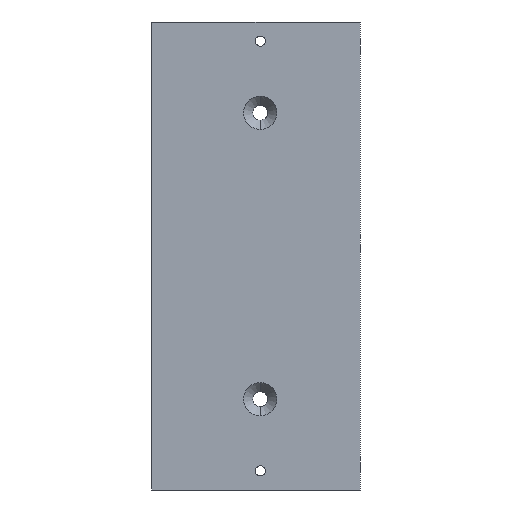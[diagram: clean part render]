
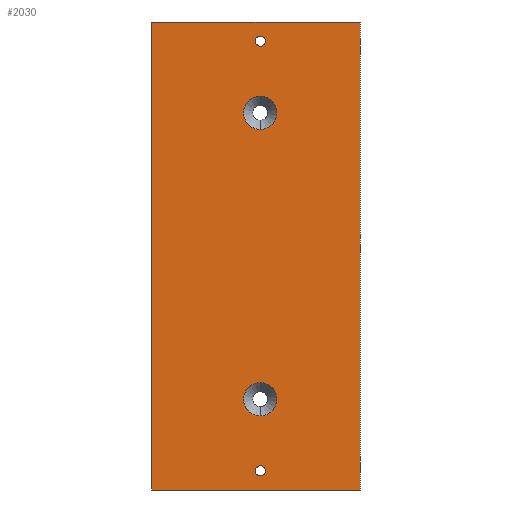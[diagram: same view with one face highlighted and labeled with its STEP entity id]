
A CAD part, left-side view. The second image highlights one B-rep face of the part: STEP entity #2030.
In plain terms, the highlighted planar face has unit normal (-1, 0, 0).
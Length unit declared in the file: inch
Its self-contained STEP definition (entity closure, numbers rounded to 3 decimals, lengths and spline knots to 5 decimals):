
#1 = FACE_BOUND ( 'NONE', #2190, .T. ) ;
#103 = FACE_OUTER_BOUND ( 'NONE', #285, .T. ) ;
#104 = FACE_BOUND ( 'NONE', #265, .T. ) ;
#105 = FACE_BOUND ( 'NONE', #2187, .T. ) ;
#108 = FACE_BOUND ( 'NONE', #2206, .T. ) ;
#166 = CIRCLE ( 'NONE', #862, 0.17427 ) ;
#265 = EDGE_LOOP ( 'NONE', ( #421, #561 ) ) ;
#285 = EDGE_LOOP ( 'NONE', ( #509, #506, #491, #490 ) ) ;
#306 = ORIENTED_EDGE ( 'NONE', *, *, #869, .F. ) ;
#307 = ORIENTED_EDGE ( 'NONE', *, *, #757, .F. ) ;
#308 = ORIENTED_EDGE ( 'NONE', *, *, #752, .F. ) ;
#355 = ORIENTED_EDGE ( 'NONE', *, *, #789, .F. ) ;
#366 = ORIENTED_EDGE ( 'NONE', *, *, #570, .F. ) ;
#421 = ORIENTED_EDGE ( 'NONE', *, *, #565, .F. ) ;
#422 = ORIENTED_EDGE ( 'NONE', *, *, #668, .F. ) ;
#490 = ORIENTED_EDGE ( 'NONE', *, *, #583, .T. ) ;
#491 = ORIENTED_EDGE ( 'NONE', *, *, #833, .F. ) ;
#506 = ORIENTED_EDGE ( 'NONE', *, *, #728, .F. ) ;
#509 = ORIENTED_EDGE ( 'NONE', *, *, #567, .T. ) ;
#561 = ORIENTED_EDGE ( 'NONE', *, *, #787, .F. ) ;
#565 = EDGE_CURVE ( 'NONE', #1891, #1794, #2054, .T. ) ;
#567 = EDGE_CURVE ( 'NONE', #1888, #1859, #2056, .T. ) ;
#570 = EDGE_CURVE ( 'NONE', #1515, #1486, #2061, .T. ) ;
#583 = EDGE_CURVE ( 'NONE', #1108, #1888, #2111, .T. ) ;
#614 = AXIS2_PLACEMENT_3D ( 'NONE', #1311, #1309, #1307 ) ;
#668 = EDGE_CURVE ( 'NONE', #1542, #1516, #166, .T. ) ;
#728 = EDGE_CURVE ( 'NONE', #1532, #1859, #1352, .T. ) ;
#745 = AXIS2_PLACEMENT_3D ( 'NONE', #1402, #1547, #1431 ) ;
#752 = EDGE_CURVE ( 'NONE', #1525, #1529, #1287, .T. ) ;
#757 = EDGE_CURVE ( 'NONE', #1529, #1525, #1429, .T. ) ;
#787 = EDGE_CURVE ( 'NONE', #1794, #1891, #946, .T. ) ;
#789 = EDGE_CURVE ( 'NONE', #1486, #1515, #947, .T. ) ;
#794 = AXIS2_PLACEMENT_3D ( 'NONE', #1784, #1783, #1785 ) ;
#798 = AXIS2_PLACEMENT_3D ( 'NONE', #975, #974, #973 ) ;
#799 = AXIS2_PLACEMENT_3D ( 'NONE', #1659, #1694, #1696 ) ;
#802 = AXIS2_PLACEMENT_3D ( 'NONE', #1379, #1378, #1377 ) ;
#833 = EDGE_CURVE ( 'NONE', #1108, #1532, #949, .T. ) ;
#838 = AXIS2_PLACEMENT_3D ( 'NONE', #1455, #1450, #1451 ) ;
#855 = AXIS2_PLACEMENT_3D ( 'NONE', #1490, #1628, #1629 ) ;
#862 = AXIS2_PLACEMENT_3D ( 'NONE', #1836, #1838, #1837 ) ;
#869 = EDGE_CURVE ( 'NONE', #1516, #1542, #1169, .T. ) ;
#946 = CIRCLE ( 'NONE', #798, 0.05325 ) ;
#947 = CIRCLE ( 'NONE', #799, 0.05325 ) ;
#949 = LINE ( 'NONE', #1388, #1194 ) ;
#973 = DIRECTION ( 'NONE',  ( 0., 0., 1. ) ) ;
#974 = DIRECTION ( 'NONE',  ( -1., 0., 0. ) ) ;
#975 = CARTESIAN_POINT ( 'NONE',  ( 0., 1.045, 2.25 ) ) ;
#1108 = VERTEX_POINT ( 'NONE', #1962 ) ;
#1169 = CIRCLE ( 'NONE', #802, 0.17427 ) ;
#1181 = CARTESIAN_POINT ( 'NONE',  ( 0., 2.18, -2.45 ) ) ;
#1186 = CARTESIAN_POINT ( 'NONE',  ( 0., 1.045, 2.30325 ) ) ;
#1194 = VECTOR ( 'NONE', #1387, 39.37008 ) ;
#1287 = CIRCLE ( 'NONE', #745, 0.17427 ) ;
#1307 = DIRECTION ( 'NONE',  ( 0., 0., -1. ) ) ;
#1309 = DIRECTION ( 'NONE',  ( 1., 0., 0. ) ) ;
#1311 = CARTESIAN_POINT ( 'NONE',  ( 0., 0., 2.45 ) ) ;
#1313 = PLANE ( 'NONE',  #614 ) ;
#1352 = LINE ( 'NONE', #1884, #1353 ) ;
#1353 = VECTOR ( 'NONE', #1430, 39.37008 ) ;
#1377 = DIRECTION ( 'NONE',  ( 0., 0., 1. ) ) ;
#1378 = DIRECTION ( 'NONE',  ( -1., 0., 0. ) ) ;
#1379 = CARTESIAN_POINT ( 'NONE',  ( 0., 1.045, 1.5 ) ) ;
#1387 = DIRECTION ( 'NONE',  ( 0., -1., 0. ) ) ;
#1388 = CARTESIAN_POINT ( 'NONE',  ( 0., 0., 2.45 ) ) ;
#1402 = CARTESIAN_POINT ( 'NONE',  ( 0., 1.045, -1.5 ) ) ;
#1430 = DIRECTION ( 'NONE',  ( 0., 0., -1. ) ) ;
#1429 = CIRCLE ( 'NONE', #838, 0.17427 ) ;
#1431 = DIRECTION ( 'NONE',  ( 0., 0., 1. ) ) ;
#1450 = DIRECTION ( 'NONE',  ( -1., 0., 0. ) ) ;
#1451 = DIRECTION ( 'NONE',  ( 0., 0., 1. ) ) ;
#1455 = CARTESIAN_POINT ( 'NONE',  ( 0., 1.045, -1.5 ) ) ;
#1486 = VERTEX_POINT ( 'NONE', #1851 ) ;
#1490 = CARTESIAN_POINT ( 'NONE',  ( 0., 1.045, 2.25 ) ) ;
#1491 = CARTESIAN_POINT ( 'NONE',  ( 0., 0., -2.45 ) ) ;
#1515 = VERTEX_POINT ( 'NONE', #1762 ) ;
#1516 = VERTEX_POINT ( 'NONE', #1760 ) ;
#1525 = VERTEX_POINT ( 'NONE', #1719 ) ;
#1529 = VERTEX_POINT ( 'NONE', #1695 ) ;
#1532 = VERTEX_POINT ( 'NONE', #1677 ) ;
#1542 = VERTEX_POINT ( 'NONE', #1619 ) ;
#1547 = DIRECTION ( 'NONE',  ( -1., 0., 0. ) ) ;
#1604 = CARTESIAN_POINT ( 'NONE',  ( 0., 1.045, 2.19675 ) ) ;
#1619 = CARTESIAN_POINT ( 'NONE',  ( 0., 1.045, 1.32573 ) ) ;
#1628 = DIRECTION ( 'NONE',  ( -1., 0., 0. ) ) ;
#1629 = DIRECTION ( 'NONE',  ( 0., 0., 1. ) ) ;
#1632 = DIRECTION ( 'NONE',  ( 0., -1., 0. ) ) ;
#1633 = CARTESIAN_POINT ( 'NONE',  ( 0., 0., -2.45 ) ) ;
#1659 = CARTESIAN_POINT ( 'NONE',  ( 0., 1.045, -2.25 ) ) ;
#1677 = CARTESIAN_POINT ( 'NONE',  ( 0., 0., 2.45 ) ) ;
#1694 = DIRECTION ( 'NONE',  ( -1., 0., 0. ) ) ;
#1695 = CARTESIAN_POINT ( 'NONE',  ( 0., 1.045, -1.32573 ) ) ;
#1696 = DIRECTION ( 'NONE',  ( 0., 0., 1. ) ) ;
#1719 = CARTESIAN_POINT ( 'NONE',  ( 0., 1.045, -1.67427 ) ) ;
#1760 = CARTESIAN_POINT ( 'NONE',  ( 0., 1.045, 1.67427 ) ) ;
#1762 = CARTESIAN_POINT ( 'NONE',  ( 0., 1.045, -2.19675 ) ) ;
#1783 = DIRECTION ( 'NONE',  ( -1., 0., 0. ) ) ;
#1784 = CARTESIAN_POINT ( 'NONE',  ( 0., 1.045, -2.25 ) ) ;
#1785 = DIRECTION ( 'NONE',  ( 0., 0., 1. ) ) ;
#1794 = VERTEX_POINT ( 'NONE', #1604 ) ;
#1836 = CARTESIAN_POINT ( 'NONE',  ( 0., 1.045, 1.5 ) ) ;
#1837 = DIRECTION ( 'NONE',  ( 0., 0., 1. ) ) ;
#1838 = DIRECTION ( 'NONE',  ( -1., 0., 0. ) ) ;
#1851 = CARTESIAN_POINT ( 'NONE',  ( 0., 1.045, -2.30325 ) ) ;
#1859 = VERTEX_POINT ( 'NONE', #1491 ) ;
#1884 = CARTESIAN_POINT ( 'NONE',  ( 0., 0., 2.45 ) ) ;
#1888 = VERTEX_POINT ( 'NONE', #1181 ) ;
#1891 = VERTEX_POINT ( 'NONE', #1186 ) ;
#1962 = CARTESIAN_POINT ( 'NONE',  ( 0., 2.18, 2.45 ) ) ;
#1975 = CARTESIAN_POINT ( 'NONE',  ( 0., 2.18, 2.45 ) ) ;
#1976 = DIRECTION ( 'NONE',  ( 0., 0., -1. ) ) ;
#2030 = ADVANCED_FACE ( 'NONE', ( #1, #108, #105, #104, #103 ), #1313, .F. ) ;
#2054 = CIRCLE ( 'NONE', #855, 0.05325 ) ;
#2056 = LINE ( 'NONE', #1633, #2060 ) ;
#2060 = VECTOR ( 'NONE', #1632, 39.37008 ) ;
#2061 = CIRCLE ( 'NONE', #794, 0.05325 ) ;
#2069 = VECTOR ( 'NONE', #1976, 39.37008 ) ;
#2111 = LINE ( 'NONE', #1975, #2069 ) ;
#2187 = EDGE_LOOP ( 'NONE', ( #366, #355 ) ) ;
#2190 = EDGE_LOOP ( 'NONE', ( #307, #308 ) ) ;
#2206 = EDGE_LOOP ( 'NONE', ( #306, #422 ) ) ;
